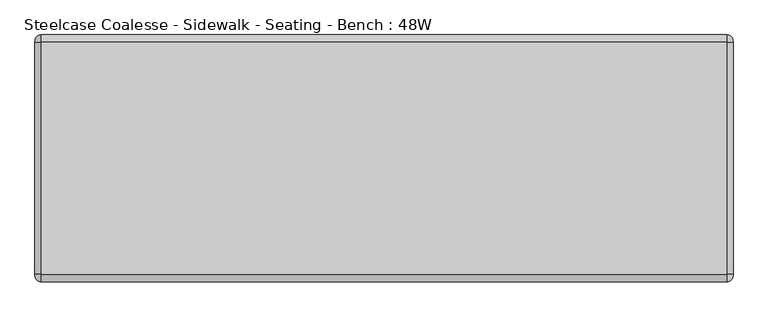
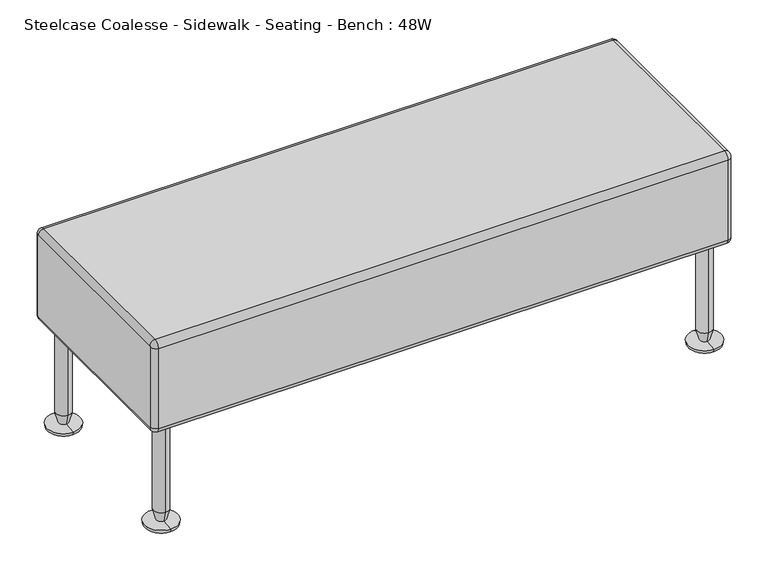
"""IFC4 building model written with IfcOpenShell, lengths in millimetres: furniture geometry, Steelcase Coalesse - Sidewalk - Seating - Bench : 48W."""

from ifc_helpers import new_model, si_unit, point, frame, origin, place, context, project, spatial, polyline, circle_curve, ellipse_curve, trimmed, source, transform, mapped, element, save
from ifc_brep_helpers import plane_surface, cylinder_surface, revolved_surface, advanced_brep


def steelcase_coalesse_sidewalk_seating_bench_48w_6bb7449c(model_context):
    return source(origin(), model_context, "Body", "AdvancedBrep", [
        advanced_brep(
        [(465.8089794, -146.3050929, 420.6875), (465.8089794, -144.7175929, 419.1), (465.8089794, -144.7175929, 241.3), (465.8089794, -146.3050929, 239.7125), (465.8089794, -552.7050929, 239.7125), (465.8089794, -554.2925929, 241.3), (465.8089794, -554.2925929, 419.1), (465.8089794, -552.7050929, 420.6875), (1685.0089794, -552.7050929, 420.6875), (1685.0089794, -554.2925929, 419.1), (1685.0089794, -554.2925929, 241.3), (1685.0089794, -552.7050929, 239.7125), (1685.0089794, -146.3050929, 239.7125), (1685.0089794, -144.7175929, 241.3), (1685.0089794, -144.7175929, 419.1), (1685.0089794, -146.3050929, 420.6875), (476.9214794, -146.3050929, 431.8), (476.9214794, -552.7050929, 431.8), (1673.8964794, -552.7050929, 431.8), (1673.8964794, -146.3050929, 431.8), (476.9214794, -133.6050929, 419.1), (1673.8964794, -133.6050929, 419.1), (476.9214794, -133.6050929, 241.3), (1673.8964794, -133.6050929, 241.3), (476.9214794, -146.3050929, 228.6), (1673.8964794, -146.3050929, 228.6), (476.9214794, -552.7050929, 228.6), (1673.8964794, -552.7050929, 228.6), (476.9214794, -565.4050929, 241.3), (1673.8964794, -565.4050929, 241.3), (476.9214794, -565.4050929, 419.1), (1673.8964794, -565.4050929, 419.1)],
        [
            (0, 1, circle_curve(frame((465.8089794, -146.3050929, 419.1), z_axis=(-1.0, 0.0, 0.0), x_axis=(0.0, 0.0, 1.0)), 1.5875)),
            (1, 2),
            (2, 3, circle_curve(frame((465.8089794, -146.3050929, 241.3), z_axis=(-1.0, 0.0, 0.0), x_axis=(0.0, 1.0, 0.0)), 1.5875)),
            (3, 4),
            (4, 5, circle_curve(frame((465.8089794, -552.7050929, 241.3), z_axis=(-1.0, 0.0, 0.0), x_axis=(0.0, 0.0, -1.0)), 1.5875)),
            (5, 6),
            (6, 7, circle_curve(frame((465.8089794, -552.7050929, 419.1), z_axis=(-1.0, 0.0, 0.0), x_axis=(0.0, -1.0, 0.0)), 1.5875)),
            (7, 0),
            (8, 9, circle_curve(frame((1685.0089794, -552.7050929, 419.1), z_axis=(1.0, 0.0, 0.0), x_axis=(0.0, 0.0, 1.0)), 1.5875)),
            (9, 10),
            (10, 11, circle_curve(frame((1685.0089794, -552.7050929, 241.3), z_axis=(1.0, 0.0, 0.0), x_axis=(0.0, -1.0, 0.0)), 1.5875)),
            (11, 12),
            (12, 13, circle_curve(frame((1685.0089794, -146.3050929, 241.3), z_axis=(1.0, 0.0, 0.0), x_axis=(0.0, 0.0, -1.0)), 1.5875)),
            (13, 14),
            (14, 15, circle_curve(frame((1685.0089794, -146.3050929, 419.1), z_axis=(1.0, 0.0, 0.0), x_axis=(0.0, 1.0, 0.0)), 1.5875)),
            (15, 8),
            (16, 17),
            (17, 18),
            (18, 19),
            (19, 16),
            (20, 16, circle_curve(frame((476.9214794, -146.3050929, 419.1), z_axis=(1.0, 0.0, 0.0), x_axis=(0.0, -1.0, 0.0)), 12.7)),
            (19, 21, circle_curve(frame((1673.8964794, -146.3050929, 419.1), z_axis=(-1.0, 0.0, 0.0), x_axis=(0.0, -1.0, 0.0)), 12.7)),
            (21, 20),
            (22, 20),
            (21, 23),
            (23, 22),
            (24, 22, circle_curve(frame((476.9214794, -146.3050929, 241.3), z_axis=(1.0, 0.0, 0.0), x_axis=(0.0, -1.0, 0.0)), 12.7)),
            (23, 25, circle_curve(frame((1673.8964794, -146.3050929, 241.3), z_axis=(-1.0, 0.0, 0.0), x_axis=(0.0, -1.0, 0.0)), 12.7)),
            (25, 24),
            (26, 24),
            (25, 27),
            (27, 26),
            (28, 26, circle_curve(frame((476.9214794, -552.7050929, 241.3), z_axis=(1.0, 0.0, 0.0), x_axis=(0.0, -1.0, 0.0)), 12.7)),
            (27, 29, circle_curve(frame((1673.8964794, -552.7050929, 241.3), z_axis=(-1.0, 0.0, 0.0), x_axis=(0.0, -1.0, 0.0)), 12.7)),
            (29, 28),
            (30, 28),
            (29, 31),
            (31, 30),
            (17, 30, circle_curve(frame((476.9214794, -552.7050929, 419.1), z_axis=(1.0, 0.0, 0.0), x_axis=(0.0, -1.0, 0.0)), 12.7)),
            (31, 18, circle_curve(frame((1673.8964794, -552.7050929, 419.1), z_axis=(-1.0, 0.0, 0.0), x_axis=(0.0, -1.0, 0.0)), 12.7)),
            (20, 1, circle_curve(frame((476.9214794, -144.7175929, 419.1), z_axis=(0.0, 0.0, 1.0), x_axis=(0.0, -1.0, 0.0)), 11.1125)),
            (0, 16, circle_curve(frame((476.9214794, -146.3050929, 420.6875), z_axis=(0.0, 1.0, 0.0), x_axis=(0.0, 0.0, -1.0)), 11.1125)),
            (22, 2, circle_curve(frame((476.9214794, -144.7175929, 241.3), z_axis=(0.0, 0.0, 1.0), x_axis=(0.0, -1.0, 0.0)), 11.1125)),
            (24, 3, circle_curve(frame((476.9214794, -146.3050929, 239.7125), z_axis=(0.0, 1.0, 0.0), x_axis=(0.0, 0.0, 1.0)), 11.1125)),
            (26, 4, circle_curve(frame((476.9214794, -552.7050929, 239.7125), z_axis=(0.0, 1.0, 0.0), x_axis=(0.0, 0.0, 1.0)), 11.1125)),
            (28, 5, circle_curve(frame((476.9214794, -554.2925929, 241.3), z_axis=(0.0, 0.0, -1.0), x_axis=(0.0, 1.0, 0.0)), 11.1125)),
            (30, 6, circle_curve(frame((476.9214794, -554.2925929, 419.1), z_axis=(0.0, 0.0, -1.0), x_axis=(0.0, 1.0, 0.0)), 11.1125)),
            (17, 7, circle_curve(frame((476.9214794, -552.7050929, 420.6875), z_axis=(0.0, -1.0, 0.0), x_axis=(0.0, 0.0, -1.0)), 11.1125)),
            (31, 9, circle_curve(frame((1673.8964794, -554.2925929, 419.1), z_axis=(0.0, 0.0, 1.0), x_axis=(0.0, -1.0, 0.0)), 11.1125)),
            (8, 18, circle_curve(frame((1673.8964794, -552.7050929, 420.6875), z_axis=(0.0, -1.0, 0.0), x_axis=(0.0, 0.0, 1.0)), 11.1125)),
            (29, 10, circle_curve(frame((1673.8964794, -554.2925929, 241.3), z_axis=(0.0, 0.0, 1.0), x_axis=(0.0, -1.0, 0.0)), 11.1125)),
            (27, 11, circle_curve(frame((1673.8964794, -552.7050929, 239.7125), z_axis=(0.0, -1.0, 0.0), x_axis=(0.0, 0.0, -1.0)), 11.1125)),
            (25, 12, circle_curve(frame((1673.8964794, -146.3050929, 239.7125), z_axis=(0.0, -1.0, 0.0), x_axis=(0.0, 0.0, -1.0)), 11.1125)),
            (23, 13, circle_curve(frame((1673.8964794, -144.7175929, 241.3), z_axis=(0.0, 0.0, -1.0), x_axis=(0.0, 1.0, 0.0)), 11.1125)),
            (21, 14, circle_curve(frame((1673.8964794, -144.7175929, 419.1), z_axis=(0.0, 0.0, -1.0), x_axis=(0.0, 1.0, 0.0)), 11.1125)),
            (19, 15, circle_curve(frame((1673.8964794, -146.3050929, 420.6875), z_axis=(0.0, 1.0, 0.0), x_axis=(0.0, 0.0, 1.0)), 11.1125)),
        ],
        [
            plane_surface(frame((465.8089794, -146.3050929, 431.8), z_axis=(-1.0, 0.0, 0.0), x_axis=(0.0, 1.0, 0.0))),
            plane_surface(frame((1685.0089794, -146.3050929, 431.8), z_axis=(1.0, 0.0, 0.0), x_axis=(0.0, -1.0, 0.0))),
            plane_surface(frame((465.8089794, -552.7050929, 431.8), z_axis=(0.0, 0.0, 1.0), x_axis=(1.0, 0.0, 0.0))),
            cylinder_surface(frame((1685.0089794, -146.3050929, 419.1), z_axis=(-1.0, 0.0, 0.0), x_axis=(0.0, -1.0, 0.0)), 12.7),
            plane_surface(frame((465.8089794, -133.6050929, 419.1), z_axis=(0.0, 1.0, 0.0), x_axis=(1.0, 0.0, 0.0))),
            cylinder_surface(frame((1685.0089794, -146.3050929, 241.3), z_axis=(-1.0, 0.0, 0.0), x_axis=(0.0, -1.0, 0.0)), 12.7),
            plane_surface(frame((465.8089794, -146.3050929, 228.6), z_axis=(0.0, 0.0, -1.0), x_axis=(1.0, 0.0, 0.0))),
            cylinder_surface(frame((1685.0089794, -552.7050929, 241.3), z_axis=(-1.0, 0.0, 0.0), x_axis=(0.0, -1.0, 0.0)), 12.7),
            plane_surface(frame((465.8089794, -565.4050929, 241.3), z_axis=(0.0, -1.0, 0.0), x_axis=(1.0, 0.0, 0.0))),
            cylinder_surface(frame((1685.0089794, -552.7050929, 419.1), z_axis=(-1.0, 0.0, 0.0), x_axis=(0.0, -1.0, 0.0)), 12.7),
            revolved_surface(trimmed(ellipse_curve(frame((476.9214794, -146.3050929, 420.6875), z_axis=(0.0, -1.0, 0.0), x_axis=(0.0, 0.0, -1.0)), 11.1125, 11.1125), [point((476.9214794, -146.3050929, 431.8))], [point((465.8089794, -146.3050929, 420.6875))], True, "CARTESIAN"), (465.8089794, -146.3050929, 419.1), (-1.0, 0.0, 0.0)),
            cylinder_surface(frame((476.9214794, -144.7175929, 419.1), z_axis=(0.0, 0.0, -1.0), x_axis=(0.0, -1.0, 0.0)), 11.1125),
            revolved_surface(trimmed(ellipse_curve(frame((476.9214794, -144.7175929, 241.3), z_axis=(0.0, 0.0, 1.0), x_axis=(0.0, -1.0, 0.0)), 11.1125, 11.1125), [point((476.9214794, -133.6050929, 241.3))], [point((465.8089794, -144.7175929, 241.3))], True, "CARTESIAN"), (465.8089794, -146.3050929, 241.3), (-1.0, 0.0, 0.0)),
            cylinder_surface(frame((476.9214794, -146.3050929, 239.7125), z_axis=(0.0, -1.0, 0.0), x_axis=(0.0, 0.0, 1.0)), 11.1125),
            revolved_surface(trimmed(ellipse_curve(frame((476.9214794, -552.7050929, 239.7125), z_axis=(0.0, 1.0, 0.0), x_axis=(0.0, 0.0, 1.0)), 11.1125, 11.1125), [point((476.9214794, -552.7050929, 228.6))], [point((465.8089794, -552.7050929, 239.7125))], True, "CARTESIAN"), (465.8089794, -552.7050929, 241.3), (-1.0, 0.0, 0.0)),
            cylinder_surface(frame((476.9214794, -554.2925929, 241.3), z_axis=(0.0, 0.0, 1.0), x_axis=(0.0, 1.0, 0.0)), 11.1125),
            revolved_surface(trimmed(ellipse_curve(frame((476.9214794, -554.2925929, 419.1), z_axis=(0.0, 0.0, -1.0), x_axis=(0.0, 1.0, 0.0)), 11.1125, 11.1125), [point((476.9214794, -565.4050929, 419.1))], [point((465.8089794, -554.2925929, 419.1))], True, "CARTESIAN"), (465.8089794, -552.7050929, 419.1), (-1.0, 0.0, 0.0)),
            cylinder_surface(frame((476.9214794, -552.7050929, 420.6875), z_axis=(0.0, 1.0, 0.0), x_axis=(0.0, 0.0, -1.0)), 11.1125),
            revolved_surface(trimmed(ellipse_curve(frame((1673.8964794, -552.7050929, 420.6875), z_axis=(0.0, 1.0, 0.0), x_axis=(0.0, 0.0, 1.0)), 11.1125, 11.1125), [point((1673.8964794, -552.7050929, 431.8))], [point((1685.0089794, -552.7050929, 420.6875))], True, "CARTESIAN"), (1685.0089794, -552.7050929, 419.1), (1.0, 0.0, 0.0)),
            cylinder_surface(frame((1673.8964794, -554.2925929, 419.1), z_axis=(0.0, 0.0, -1.0), x_axis=(0.0, -1.0, 0.0)), 11.1125),
            revolved_surface(trimmed(ellipse_curve(frame((1673.8964794, -554.2925929, 241.3), z_axis=(0.0, 0.0, 1.0), x_axis=(0.0, -1.0, 0.0)), 11.1125, 11.1125), [point((1673.8964794, -565.4050929, 241.3))], [point((1685.0089794, -554.2925929, 241.3))], True, "CARTESIAN"), (1685.0089794, -552.7050929, 241.3), (1.0, 0.0, 0.0)),
            cylinder_surface(frame((1673.8964794, -552.7050929, 239.7125), z_axis=(0.0, 1.0, 0.0), x_axis=(0.0, 0.0, -1.0)), 11.1125),
            revolved_surface(trimmed(ellipse_curve(frame((1673.8964794, -146.3050929, 239.7125), z_axis=(0.0, -1.0, 0.0), x_axis=(0.0, 0.0, -1.0)), 11.1125, 11.1125), [point((1673.8964794, -146.3050929, 228.6))], [point((1685.0089794, -146.3050929, 239.7125))], True, "CARTESIAN"), (1685.0089794, -146.3050929, 241.3), (1.0, 0.0, 0.0)),
            cylinder_surface(frame((1673.8964794, -144.7175929, 241.3), z_axis=(0.0, 0.0, 1.0), x_axis=(0.0, 1.0, 0.0)), 11.1125),
            revolved_surface(trimmed(ellipse_curve(frame((1673.8964794, -144.7175929, 419.1), z_axis=(0.0, 0.0, -1.0), x_axis=(0.0, 1.0, 0.0)), 11.1125, 11.1125), [point((1673.8964794, -133.6050929, 419.1))], [point((1685.0089794, -144.7175929, 419.1))], True, "CARTESIAN"), (1685.0089794, -146.3050929, 419.1), (1.0, 0.0, 0.0)),
            cylinder_surface(frame((1673.8964794, -146.3050929, 420.6875), z_axis=(0.0, -1.0, 0.0), x_axis=(0.0, 0.0, 1.0)), 11.1125),
        ],
        [
            (0, [[1, 2, 3, 4, 5, 6, 7, 8]]),
            (1, [[9, 10, 11, 12, 13, 14, 15, 16]]),
            (2, [[17, 18, 19, 20]]),
            (3, [[21, -20, 22, 23]]),
            (4, [[24, -23, 25, 26]]),
            (5, [[27, -26, 28, 29]]),
            (6, [[30, -29, 31, 32]]),
            (7, [[33, -32, 34, 35]]),
            (8, [[36, -35, 37, 38]]),
            (9, [[39, -38, 40, -18]]),
            (10, [[41, -1, 42, -21]]),
            (11, [[-41, -24, 43, -2]]),
            (12, [[-43, -27, 44, -3]]),
            (13, [[-44, -30, 45, -4]]),
            (14, [[-45, -33, 46, -5]]),
            (15, [[-46, -36, 47, -6]]),
            (16, [[-47, -39, 48, -7]]),
            (17, [[-42, -8, -48, -17]]),
            (18, [[49, -9, 50, -40]]),
            (19, [[-49, -37, 51, -10]]),
            (20, [[-51, -34, 52, -11]]),
            (21, [[-52, -31, 53, -12]]),
            (22, [[-53, -28, 54, -13]]),
            (23, [[-54, -25, 55, -14]]),
            (24, [[-55, -22, 56, -15]]),
            (25, [[-50, -16, -56, -19]]),
        ],
    ),
        advanced_brep(
        [(1646.9089794, -187.5800929, 31.75), (1646.9089794, -155.8300929, 31.75), (1646.9089794, -155.8300929, 228.6), (1646.9089794, -187.5800929, 228.6), (1646.9089794, -181.5884463, 8.5001207), (1646.9089794, -161.8217394, 8.5001207), (1646.9089794, -206.6300929, 6.35), (1646.9089794, -136.7800929, 6.35), (1646.9089794, -205.5717596, 0.0), (1646.9089794, -137.8384262, 0.0), (1646.9089794, -171.7050929, 0.0), (1646.9089794, -171.7050929, 228.6)],
        [
            (0, 1, circle_curve(frame((1646.9089794, -171.7050929, 31.75), z_axis=(0.0, 0.0, 1.0), x_axis=(0.0, 1.0, 0.0)), 15.875)),
            (1, 2),
            (2, 3, circle_curve(frame((1646.9089794, -171.7050929, 228.6), z_axis=(0.0, 0.0, -1.0), x_axis=(0.0, 1.0, 0.0)), 15.875)),
            (3, 0),
            (1, 0, circle_curve(frame((1646.9089794, -171.7050929, 31.75), z_axis=(0.0, 0.0, 1.0), x_axis=(0.0, 1.0, 0.0)), 15.875)),
            (3, 2, circle_curve(frame((1646.9089794, -171.7050929, 228.6), z_axis=(0.0, 0.0, -1.0), x_axis=(0.0, 1.0, 0.0)), 15.875)),
            (4, 5, circle_curve(frame((1646.9089794, -171.7050929, 8.5001207), z_axis=(0.0, 0.0, 1.0), x_axis=(0.0, 1.0, 0.0)), 9.8833534)),
            (5, 1),
            (0, 4),
            (5, 4, circle_curve(frame((1646.9089794, -171.7050929, 8.5001207), z_axis=(0.0, 0.0, 1.0), x_axis=(0.0, 1.0, 0.0)), 9.8833534)),
            (6, 7, circle_curve(frame((1646.9089794, -171.7050929, 6.35), z_axis=(0.0, 0.0, 1.0), x_axis=(0.0, 1.0, 0.0)), 34.925)),
            (7, 5),
            (4, 6),
            (7, 6, circle_curve(frame((1646.9089794, -171.7050929, 6.35), z_axis=(0.0, 0.0, 1.0), x_axis=(0.0, 1.0, 0.0)), 34.925)),
            (8, 9, circle_curve(frame((1646.9089794, -171.7050929, 0.0), z_axis=(0.0, 0.0, 1.0), x_axis=(0.0, 1.0, 0.0)), 33.8666667)),
            (9, 7),
            (6, 8),
            (9, 8, circle_curve(frame((1646.9089794, -171.7050929, 0.0), z_axis=(0.0, 0.0, 1.0), x_axis=(0.0, 1.0, 0.0)), 33.8666667)),
            (10, 9),
            (8, 10),
            (2, 11),
            (11, 3),
        ],
        [
            cylinder_surface(frame((1646.9089794, -171.7050929, -95.25), z_axis=(0.0, 0.0, -1.0), x_axis=(0.0, 1.0, 0.0)), 15.875),
            revolved_surface(polyline([(1646.9089794, -155.8300929, 31.75), (1646.9089794, -161.8217394, 8.5001207)]), (1646.9089794, -171.7050929, -95.25), (0.0, 0.0, -1.0)),
            revolved_surface(polyline([(1646.9089794, -161.8217394, 8.5001207), (1646.9089794, -136.7800929, 6.35)]), (1646.9089794, -171.7050929, -95.25), (0.0, 0.0, -1.0)),
            revolved_surface(polyline([(1646.9089794, -136.7800929, 6.35), (1646.9089794, -137.8384262, 0.0)]), (1646.9089794, -171.7050929, -95.25), (0.0, 0.0, -1.0)),
            plane_surface(frame((1646.9089794, -171.7050929, 0.0), z_axis=(0.0, 0.0, -1.0), x_axis=(0.0, 1.0, 0.0))),
            plane_surface(frame((1646.9089794, -171.7050929, 228.6), z_axis=(0.0, 0.0, 1.0), x_axis=(0.0, 1.0, 0.0))),
        ],
        [
            (0, [[1, 2, 3, 4]]),
            (0, [[5, -4, 6, -2]]),
            (1, [[7, 8, -1, 9]]),
            (1, [[10, -9, -5, -8]]),
            (2, [[11, 12, -7, 13]]),
            (2, [[14, -13, -10, -12]]),
            (3, [[15, 16, -11, 17]]),
            (3, [[18, -17, -14, -16]]),
            (4, [[19, -15, 20]]),
            (4, [[-20, -18, -19]]),
            (5, [[-3, 21, 22]]),
            (5, [[-6, -22, -21]]),
        ],
    ),
        advanced_brep(
        [(503.9089794, -171.7050929, 228.6), (503.9089794, -155.8300929, 228.6), (503.9089794, -187.5800929, 228.6), (503.9089794, -205.5717596, 0.0), (503.9089794, -137.8384262, 0.0), (503.9089794, -171.7050929, 0.0), (503.9089794, -206.6300929, 6.35), (503.9089794, -136.7800929, 6.35), (503.9089794, -181.5884463, 8.5001207), (503.9089794, -161.8217394, 8.5001207), (503.9089794, -187.5800929, 31.75), (503.9089794, -155.8300929, 31.75)],
        [
            (0, 1),
            (1, 2, circle_curve(frame((503.9089794, -171.7050929, 228.6), z_axis=(0.0, 0.0, 1.0), x_axis=(0.0, 1.0, 0.0)), 15.875)),
            (2, 0),
            (2, 1, circle_curve(frame((503.9089794, -171.7050929, 228.6), z_axis=(0.0, 0.0, 1.0), x_axis=(0.0, 1.0, 0.0)), 15.875)),
            (3, 4, circle_curve(frame((503.9089794, -171.7050929, 0.0), z_axis=(0.0, 0.0, -1.0), x_axis=(0.0, 1.0, 0.0)), 33.8666667)),
            (4, 5),
            (5, 3),
            (4, 3, circle_curve(frame((503.9089794, -171.7050929, 0.0), z_axis=(0.0, 0.0, -1.0), x_axis=(0.0, 1.0, 0.0)), 33.8666667)),
            (6, 7, circle_curve(frame((503.9089794, -171.7050929, 6.35), z_axis=(0.0, 0.0, -1.0), x_axis=(0.0, 1.0, 0.0)), 34.925)),
            (7, 4),
            (3, 6),
            (7, 6, circle_curve(frame((503.9089794, -171.7050929, 6.35), z_axis=(0.0, 0.0, -1.0), x_axis=(0.0, 1.0, 0.0)), 34.925)),
            (8, 9, circle_curve(frame((503.9089794, -171.7050929, 8.5001207), z_axis=(0.0, 0.0, -1.0), x_axis=(0.0, 1.0, 0.0)), 9.8833534)),
            (9, 7),
            (6, 8),
            (9, 8, circle_curve(frame((503.9089794, -171.7050929, 8.5001207), z_axis=(0.0, 0.0, -1.0), x_axis=(0.0, 1.0, 0.0)), 9.8833534)),
            (10, 11, circle_curve(frame((503.9089794, -171.7050929, 31.75), z_axis=(0.0, 0.0, -1.0), x_axis=(0.0, 1.0, 0.0)), 15.875)),
            (11, 9),
            (8, 10),
            (11, 10, circle_curve(frame((503.9089794, -171.7050929, 31.75), z_axis=(0.0, 0.0, -1.0), x_axis=(0.0, 1.0, 0.0)), 15.875)),
            (1, 11),
            (10, 2),
        ],
        [
            plane_surface(frame((503.9089794, -171.7050929, 228.6), z_axis=(0.0, 0.0, 1.0), x_axis=(0.0, 1.0, 0.0))),
            plane_surface(frame((503.9089794, -171.7050929, 0.0), z_axis=(0.0, 0.0, -1.0), x_axis=(0.0, 1.0, 0.0))),
            revolved_surface(polyline([(503.9089794, -137.8384262, 0.0), (503.9089794, -136.7800929, 6.35)]), (503.9089794, -171.7050929, -95.25), (0.0, 0.0, 1.0)),
            revolved_surface(polyline([(503.9089794, -136.7800929, 6.35), (503.9089794, -161.8217394, 8.5001207)]), (503.9089794, -171.7050929, -95.25), (0.0, 0.0, 1.0)),
            revolved_surface(polyline([(503.9089794, -161.8217394, 8.5001207), (503.9089794, -155.8300929, 31.75)]), (503.9089794, -171.7050929, -95.25), (0.0, 0.0, 1.0)),
            cylinder_surface(frame((503.9089794, -171.7050929, -95.25), z_axis=(0.0, 0.0, 1.0), x_axis=(0.0, 1.0, 0.0)), 15.875),
        ],
        [
            (0, [[1, 2, 3]]),
            (0, [[-3, 4, -1]]),
            (1, [[5, 6, 7]]),
            (1, [[8, -7, -6]]),
            (2, [[9, 10, -5, 11]]),
            (2, [[12, -11, -8, -10]]),
            (3, [[13, 14, -9, 15]]),
            (3, [[16, -15, -12, -14]]),
            (4, [[17, 18, -13, 19]]),
            (4, [[20, -19, -16, -18]]),
            (5, [[-2, 21, -17, 22]]),
            (5, [[-4, -22, -20, -21]]),
        ],
    ),
        advanced_brep(
        [(1646.9089794, -543.1800929, 31.75), (1646.9089794, -511.4300929, 31.75), (1646.9089794, -511.4300929, 228.6), (1646.9089794, -543.1800929, 228.6), (1646.9089794, -537.1884463, 8.5001207), (1646.9089794, -517.4217394, 8.5001207), (1646.9089794, -562.2300929, 6.35), (1646.9089794, -492.3800929, 6.35), (1646.9089794, -561.1717596, 0.0), (1646.9089794, -493.4384262, 0.0), (1646.9089794, -527.3050929, 0.0), (1646.9089794, -527.3050929, 228.6)],
        [
            (0, 1, circle_curve(frame((1646.9089794, -527.3050929, 31.75), z_axis=(0.0, 0.0, 1.0), x_axis=(0.0, 1.0, 0.0)), 15.875)),
            (1, 2),
            (2, 3, circle_curve(frame((1646.9089794, -527.3050929, 228.6), z_axis=(0.0, 0.0, -1.0), x_axis=(0.0, 1.0, 0.0)), 15.875)),
            (3, 0),
            (1, 0, circle_curve(frame((1646.9089794, -527.3050929, 31.75), z_axis=(0.0, 0.0, 1.0), x_axis=(0.0, 1.0, 0.0)), 15.875)),
            (3, 2, circle_curve(frame((1646.9089794, -527.3050929, 228.6), z_axis=(0.0, 0.0, -1.0), x_axis=(0.0, 1.0, 0.0)), 15.875)),
            (4, 5, circle_curve(frame((1646.9089794, -527.3050929, 8.5001207), z_axis=(0.0, 0.0, 1.0), x_axis=(0.0, 1.0, 0.0)), 9.8833534)),
            (5, 1),
            (0, 4),
            (5, 4, circle_curve(frame((1646.9089794, -527.3050929, 8.5001207), z_axis=(0.0, 0.0, 1.0), x_axis=(0.0, 1.0, 0.0)), 9.8833534)),
            (6, 7, circle_curve(frame((1646.9089794, -527.3050929, 6.35), z_axis=(0.0, 0.0, 1.0), x_axis=(0.0, 1.0, 0.0)), 34.925)),
            (7, 5),
            (4, 6),
            (7, 6, circle_curve(frame((1646.9089794, -527.3050929, 6.35), z_axis=(0.0, 0.0, 1.0), x_axis=(0.0, 1.0, 0.0)), 34.925)),
            (8, 9, circle_curve(frame((1646.9089794, -527.3050929, 0.0), z_axis=(0.0, 0.0, 1.0), x_axis=(0.0, 1.0, 0.0)), 33.8666667)),
            (9, 7),
            (6, 8),
            (9, 8, circle_curve(frame((1646.9089794, -527.3050929, 0.0), z_axis=(0.0, 0.0, 1.0), x_axis=(0.0, 1.0, 0.0)), 33.8666667)),
            (10, 9),
            (8, 10),
            (2, 11),
            (11, 3),
        ],
        [
            cylinder_surface(frame((1646.9089794, -527.3050929, -95.25), z_axis=(0.0, 0.0, -1.0), x_axis=(0.0, 1.0, 0.0)), 15.875),
            revolved_surface(polyline([(1646.9089794, -511.4300929, 31.75), (1646.9089794, -517.4217394, 8.5001207)]), (1646.9089794, -527.3050929, -95.25), (0.0, 0.0, -1.0)),
            revolved_surface(polyline([(1646.9089794, -517.4217394, 8.5001207), (1646.9089794, -492.3800929, 6.35)]), (1646.9089794, -527.3050929, -95.25), (0.0, 0.0, -1.0)),
            revolved_surface(polyline([(1646.9089794, -492.3800929, 6.35), (1646.9089794, -493.4384262, 0.0)]), (1646.9089794, -527.3050929, -95.25), (0.0, 0.0, -1.0)),
            plane_surface(frame((1646.9089794, -527.3050929, 0.0), z_axis=(0.0, 0.0, -1.0), x_axis=(0.0, 1.0, 0.0))),
            plane_surface(frame((1646.9089794, -527.3050929, 228.6), z_axis=(0.0, 0.0, 1.0), x_axis=(0.0, 1.0, 0.0))),
        ],
        [
            (0, [[1, 2, 3, 4]]),
            (0, [[5, -4, 6, -2]]),
            (1, [[7, 8, -1, 9]]),
            (1, [[10, -9, -5, -8]]),
            (2, [[11, 12, -7, 13]]),
            (2, [[14, -13, -10, -12]]),
            (3, [[15, 16, -11, 17]]),
            (3, [[18, -17, -14, -16]]),
            (4, [[19, -15, 20]]),
            (4, [[-20, -18, -19]]),
            (5, [[-3, 21, 22]]),
            (5, [[-6, -22, -21]]),
        ],
    ),
        advanced_brep(
        [(503.9089794, -527.3050929, 228.6), (503.9089794, -511.4300929, 228.6), (503.9089794, -543.1800929, 228.6), (503.9089794, -561.1717596, 0.0), (503.9089794, -493.4384262, 0.0), (503.9089794, -527.3050929, 0.0), (503.9089794, -562.2300929, 6.35), (503.9089794, -492.3800929, 6.35), (503.9089794, -537.1884463, 8.5001207), (503.9089794, -517.4217394, 8.5001207), (503.9089794, -543.1800929, 31.75), (503.9089794, -511.4300929, 31.75)],
        [
            (0, 1),
            (1, 2, circle_curve(frame((503.9089794, -527.3050929, 228.6), z_axis=(0.0, 0.0, 1.0), x_axis=(0.0, 1.0, 0.0)), 15.875)),
            (2, 0),
            (2, 1, circle_curve(frame((503.9089794, -527.3050929, 228.6), z_axis=(0.0, 0.0, 1.0), x_axis=(0.0, 1.0, 0.0)), 15.875)),
            (3, 4, circle_curve(frame((503.9089794, -527.3050929, 0.0), z_axis=(0.0, 0.0, -1.0), x_axis=(0.0, 1.0, 0.0)), 33.8666667)),
            (4, 5),
            (5, 3),
            (4, 3, circle_curve(frame((503.9089794, -527.3050929, 0.0), z_axis=(0.0, 0.0, -1.0), x_axis=(0.0, 1.0, 0.0)), 33.8666667)),
            (6, 7, circle_curve(frame((503.9089794, -527.3050929, 6.35), z_axis=(0.0, 0.0, -1.0), x_axis=(0.0, 1.0, 0.0)), 34.925)),
            (7, 4),
            (3, 6),
            (7, 6, circle_curve(frame((503.9089794, -527.3050929, 6.35), z_axis=(0.0, 0.0, -1.0), x_axis=(0.0, 1.0, 0.0)), 34.925)),
            (8, 9, circle_curve(frame((503.9089794, -527.3050929, 8.5001207), z_axis=(0.0, 0.0, -1.0), x_axis=(0.0, 1.0, 0.0)), 9.8833534)),
            (9, 7),
            (6, 8),
            (9, 8, circle_curve(frame((503.9089794, -527.3050929, 8.5001207), z_axis=(0.0, 0.0, -1.0), x_axis=(0.0, 1.0, 0.0)), 9.8833534)),
            (10, 11, circle_curve(frame((503.9089794, -527.3050929, 31.75), z_axis=(0.0, 0.0, -1.0), x_axis=(0.0, 1.0, 0.0)), 15.875)),
            (11, 9),
            (8, 10),
            (11, 10, circle_curve(frame((503.9089794, -527.3050929, 31.75), z_axis=(0.0, 0.0, -1.0), x_axis=(0.0, 1.0, 0.0)), 15.875)),
            (1, 11),
            (10, 2),
        ],
        [
            plane_surface(frame((503.9089794, -527.3050929, 228.6), z_axis=(0.0, 0.0, 1.0), x_axis=(0.0, 1.0, 0.0))),
            plane_surface(frame((503.9089794, -527.3050929, 0.0), z_axis=(0.0, 0.0, -1.0), x_axis=(0.0, 1.0, 0.0))),
            revolved_surface(polyline([(503.9089794, -493.4384262, 0.0), (503.9089794, -492.3800929, 6.35)]), (503.9089794, -527.3050929, -95.25), (0.0, 0.0, 1.0)),
            revolved_surface(polyline([(503.9089794, -492.3800929, 6.35), (503.9089794, -517.4217394, 8.5001207)]), (503.9089794, -527.3050929, -95.25), (0.0, 0.0, 1.0)),
            revolved_surface(polyline([(503.9089794, -517.4217394, 8.5001207), (503.9089794, -511.4300929, 31.75)]), (503.9089794, -527.3050929, -95.25), (0.0, 0.0, 1.0)),
            cylinder_surface(frame((503.9089794, -527.3050929, -95.25), z_axis=(0.0, 0.0, 1.0), x_axis=(0.0, 1.0, 0.0)), 15.875),
        ],
        [
            (0, [[1, 2, 3]]),
            (0, [[-3, 4, -1]]),
            (1, [[5, 6, 7]]),
            (1, [[8, -7, -6]]),
            (2, [[9, 10, -5, 11]]),
            (2, [[12, -11, -8, -10]]),
            (3, [[13, 14, -9, 15]]),
            (3, [[16, -15, -12, -14]]),
            (4, [[17, 18, -13, 19]]),
            (4, [[20, -19, -16, -18]]),
            (5, [[-2, 21, -17, 22]]),
            (5, [[-4, -22, -20, -21]]),
        ],
    ),
    ])


if __name__ == "__main__":
    model = new_model("IFC4")
    model_context = context("Model", 3, world=origin())
    ifc_project = project(units=[si_unit("LENGTHUNIT", "METRE", prefix="MILLI")], contexts=[model_context])
    site = spatial("IfcSite", under=ifc_project)
    building = spatial("IfcBuilding", under=site)
    placement = place(None, origin())
    steelcase_coalesse_sidewalk_seating_bench_48w_shape = steelcase_coalesse_sidewalk_seating_bench_48w_6bb7449c(model_context)
    element("IfcFurniture", 1, ObjectType="Steelcase Coalesse - Sidewalk - Seating - Bench : 48W", at=placement, inside=building, context=model_context, shape_type="MappedRepresentation", body=[
        mapped(steelcase_coalesse_sidewalk_seating_bench_48w_shape, transform((0.0, 0.0, 0.0), x_axis=(1.0, 0.0, 0.0), y_axis=(0.0, 1.0, 0.0), z_axis=(0.0, 0.0, 1.0))),
    ])
    save(model, "model.ifc")
